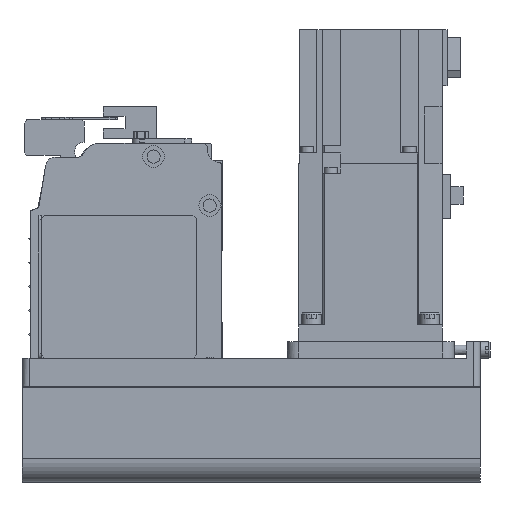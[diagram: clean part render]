
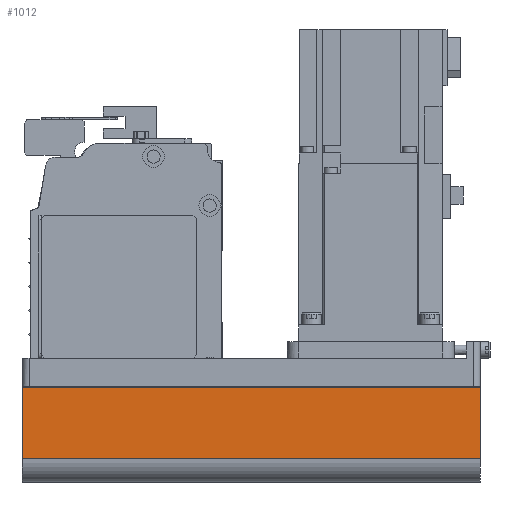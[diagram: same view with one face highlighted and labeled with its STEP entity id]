
A CAD part, left-side view. The second image highlights one B-rep face of the part: STEP entity #1012.
In plain terms, the highlighted planar face has unit normal (-1, 0, 0) as drawn and (0, 1, 0) by its records, which use the part's own axes.
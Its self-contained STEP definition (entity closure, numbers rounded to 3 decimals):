
#1012 = ADVANCED_FACE( '', ( #2598 ), #2599, .T. );
#2598 = FACE_OUTER_BOUND( '', #4966, .T. );
#2599 = PLANE( '', #4967 );
#4966 = EDGE_LOOP( '', ( #7702, #7703, #7704, #7705 ) );
#4967 = AXIS2_PLACEMENT_3D( '', #7706, #7707, #7708 );
#7702 = ORIENTED_EDGE( '', *, *, #13670, .F. );
#7703 = ORIENTED_EDGE( '', *, *, #13849, .F. );
#7704 = ORIENTED_EDGE( '', *, *, #13850, .T. );
#7705 = ORIENTED_EDGE( '', *, *, #13851, .T. );
#7706 = CARTESIAN_POINT( '', ( -192., 40., -42. ) );
#7707 = DIRECTION( '', ( 0., 1., 0. ) );
#7708 = DIRECTION( '', ( 0., 0., 1. ) );
#13670 = EDGE_CURVE( '', #16306, #16307, #16308, .T. );
#13849 = EDGE_CURVE( '', #16617, #16306, #16618, .T. );
#13850 = EDGE_CURVE( '', #16617, #16619, #16620, .T. );
#13851 = EDGE_CURVE( '', #16619, #16307, #16621, .T. );
#16306 = VERTEX_POINT( '', #20087 );
#16307 = VERTEX_POINT( '', #20088 );
#16308 = LINE( '', #20089, #20090 );
#16617 = VERTEX_POINT( '', #20482 );
#16618 = LINE( '', #20483, #20484 );
#16619 = VERTEX_POINT( '', #20485 );
#16620 = LINE( '', #20486, #20487 );
#16621 = LINE( '', #20488, #20489 );
#20087 = CARTESIAN_POINT( '', ( 0., 40., -42. ) );
#20088 = CARTESIAN_POINT( '', ( 0., 40., -12.1 ) );
#20089 = CARTESIAN_POINT( '', ( 0., 40., -42. ) );
#20090 = VECTOR( '', #24722, 1000. );
#20482 = CARTESIAN_POINT( '', ( -192., 40., -42. ) );
#20483 = CARTESIAN_POINT( '', ( -192., 40., -42. ) );
#20484 = VECTOR( '', #24980, 1000. );
#20485 = CARTESIAN_POINT( '', ( -192., 40., -12.1 ) );
#20486 = CARTESIAN_POINT( '', ( -192., 40., -42. ) );
#20487 = VECTOR( '', #24981, 1000. );
#20488 = CARTESIAN_POINT( '', ( -192., 40., -12.1 ) );
#20489 = VECTOR( '', #24982, 1000. );
#24722 = DIRECTION( '', ( 0., 0., 1. ) );
#24980 = DIRECTION( '', ( 1., 0., 0. ) );
#24981 = DIRECTION( '', ( 0., 0., 1. ) );
#24982 = DIRECTION( '', ( 1., 0., 0. ) );
